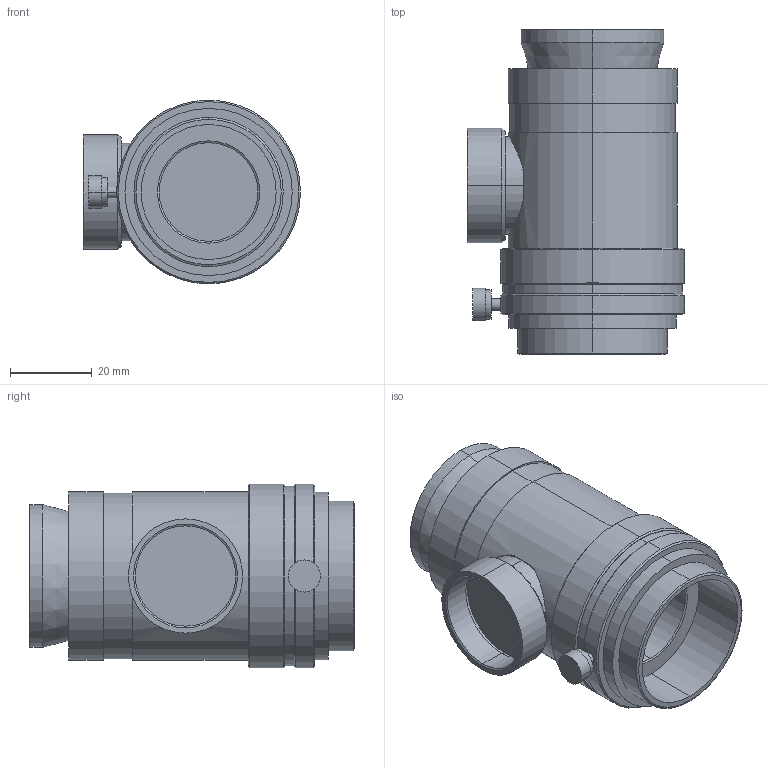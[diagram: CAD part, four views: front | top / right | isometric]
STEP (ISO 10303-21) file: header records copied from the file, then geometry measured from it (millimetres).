
FILE_DESCRIPTION (( 'STEP AP203' ), '1' );
FILE_NAME ('45-04-10-000 OUTLINE.STEP', '2020-08-18T01:34:37', ( '' ), ( '' ), 'SwSTEP 2.0', 'SolidWorks 2018', '' );
FILE_SCHEMA (( 'CONFIG_CONTROL_DESIGN' ));
Length unit declared in the file: inch
Products named in the file (1): 45-04-10-000 OUTLINE
Bounding box: 53.07 x 79.38 x 44.96 mm (x, y, z)
Volume: 82372 mm3; surface area: 19097.7 mm2
Topology: 1 solids, 1 shells, 84 faces, 166 edges, 102 vertices
Faces by surface type: cylinder 40, cone 24, plane 20
Entity records: 2387 total; most frequent: CARTESIAN_POINT 489, DIRECTION 430, ORIENTED_EDGE 332, AXIS2_PLACEMENT_3D 183, EDGE_CURVE 166, VERTEX_POINT 102, EDGE_LOOP 102, CIRCLE 98
